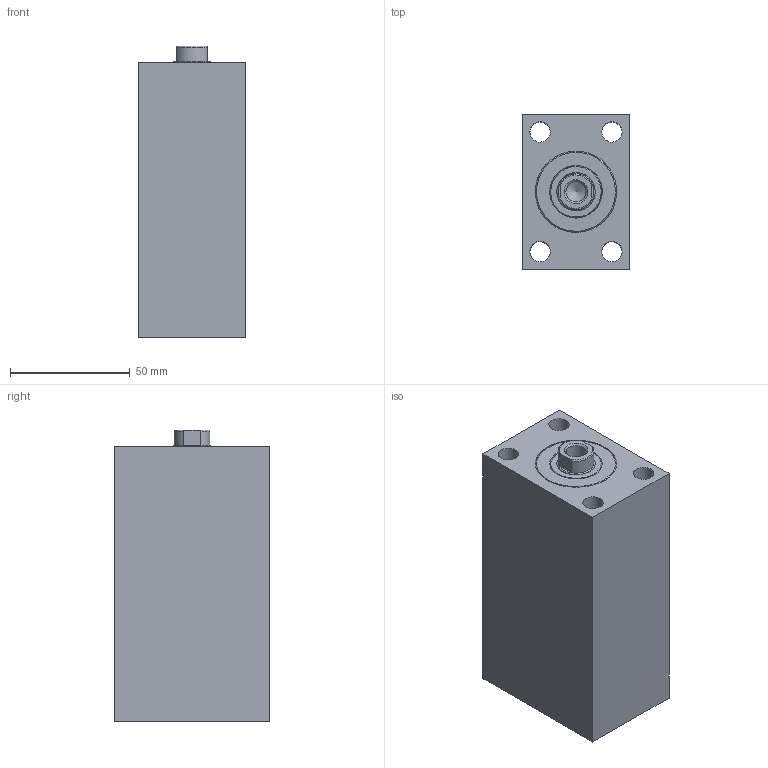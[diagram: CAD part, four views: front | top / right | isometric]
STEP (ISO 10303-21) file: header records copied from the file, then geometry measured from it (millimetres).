
FILE_DESCRIPTION( ( 'STEP AP203' ), '1' );
FILE_NAME( 'C:/Users/SAYKO.ltd/Desktop/SBZ100/02/SBZ100-25/SBZ100.25__FORM_02_STROKE_50__H2_58_POS_0_.stp', ' ', ( ' ' ), ( ' ' ), 'PSStep 15.0.47', 'PARTsolutions', ' ' );
FILE_SCHEMA( ( 'CONFIG_CONTROL_DESIGN' ) );
Length unit declared in the file: millimetre
Products named in the file (5): SBZ100.25  FORM=02 STROKE=50 (H2=58 POS=0); HI_SBZ10025  FORM=02 STROKE=50 H2=58 -C; HI_SBZ10025  FORM=02 STROKE=50-R; HI_SBZ100.25-C; HI_SBZ100.25-S
Assembly tree (4 placements, depth 2):
  SBZ100.25  FORM=02 STROKE=50 (H2=58 POS=0)
    HI_SBZ10025  FORM=02 STROKE=50 H2=58 -C
    HI_SBZ10025  FORM=02 STROKE=50-R
    HI_SBZ100.25-C
    HI_SBZ100.25-S
Bounding box: 45 x 65 x 122 mm (x, y, z)
Volume: 289171.8 mm3; surface area: 68013.4 mm2
Topology: 4 solids, 4 shells, 66 faces, 130 edges, 85 vertices
Faces by surface type: plane 31, cylinder 28, cone 4, torus 3
Full cylindrical faces by diameter (mm): 3 x2, 8.376 x1, 8.5 x4, 11.445 x2, 13.6 x4, 16 x6, 22 x1, 24 x2, 25 x2, 34 x2
Entity records: 3609 total; most frequent: CARTESIAN_POINT 2379, ORIENTED_EDGE 176, DIRECTION 158, EDGE_LOOP 128, FACE_OUTER_BOUND 93, EDGE_CURVE 88, VERTEX_POINT 77, B_SPLINE_CURVE_WITH_KNOTS 72
